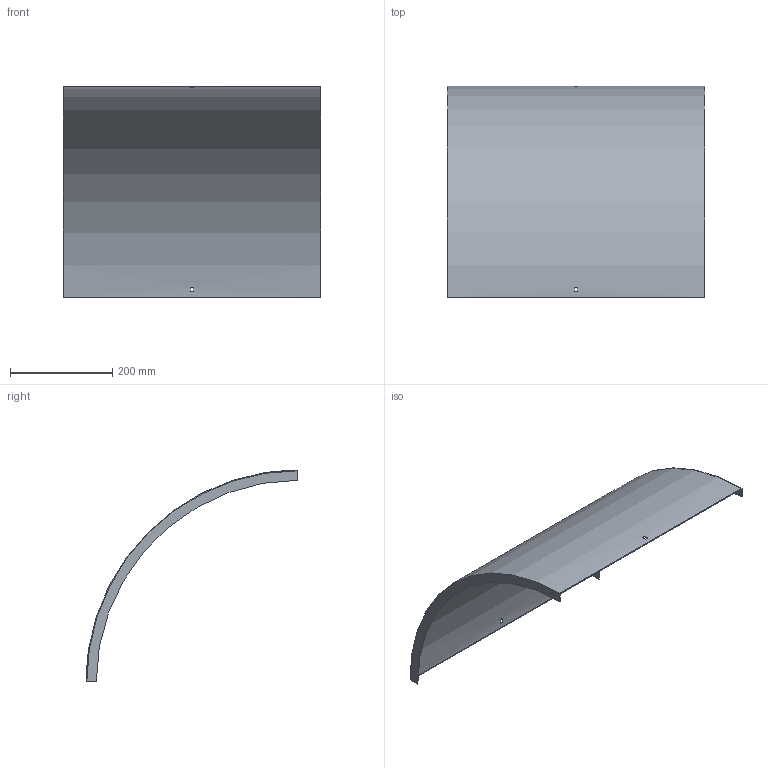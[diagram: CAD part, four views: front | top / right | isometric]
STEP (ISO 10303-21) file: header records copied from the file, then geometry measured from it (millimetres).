
FILE_DESCRIPTION (( 'STEP AP214' ), '1' );
FILE_NAME ('B2_33N3J500.step', '2025-02-21T10:47:41', ( '' ), ( '' ), 'SwSTEP 2.0', 'SolidWorks 2023', '' );
FILE_SCHEMA (( 'AUTOMOTIVE_DESIGN' ));
Length unit declared in the file: millimetre
Products named in the file (1): B2_33N3J500
Bounding box: 503 x 414 x 414 mm (x, y, z)
Volume: 524749.1 mm3; surface area: 703238.8 mm2
Topology: 1 solids, 1 shells, 18 faces, 48 edges, 32 vertices
Faces by surface type: plane 14, cylinder 4
Entity records: 599 total; most frequent: DIRECTION 102, CARTESIAN_POINT 99, ORIENTED_EDGE 96, EDGE_CURVE 48, AXIS2_PLACEMENT_3D 35, LINE 32, VERTEX_POINT 32, VECTOR 32
